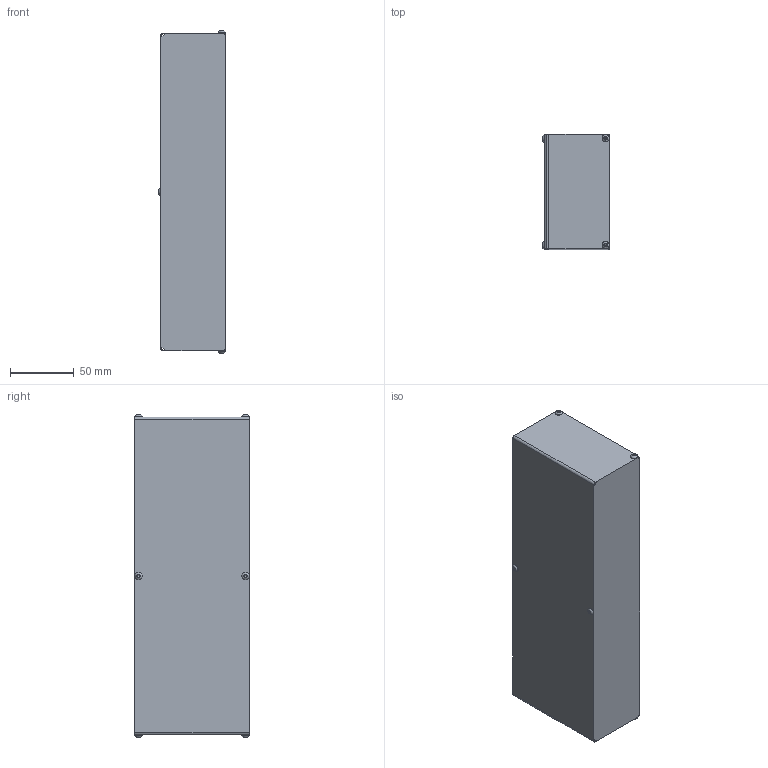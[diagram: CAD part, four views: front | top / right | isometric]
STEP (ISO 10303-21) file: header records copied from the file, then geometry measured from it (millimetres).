
FILE_DESCRIPTION(/* description */ (''),/* implementation_level */ '2;1');
FILE_NAME(/* name */ 'X:\VIRI ZA WEB\CAD DATOTEKE\LINEARNE ENOTE UNIMOTION\DODATNA OPREMA ZA LINEARNE ENOTE\STRANSKI POGONI\CTV-MTV\CTV 110-MTV 65\MSD CTV 110 T2 1 96 X 96\izvoz\MSD CTV 110 T2 1 96 X 96.stp',/* time_stamp */ '2016-06-06T11:06:27+02:00',/* author */ ('Hypex'),/* organization */ ('Hypex'),/* preprocessor_version */ 'ST-DEVELOPER v16.1',/* originating_system */ 'Autodesk Inventor 2016',/* authorisation */ '');
FILE_SCHEMA (('AUTOMOTIVE_DESIGN { 1 0 10303 214 3 1 1 }'));
Length unit declared in the file: millimetre
Products named in the file (1): MSD CTV 110 T2 1 96 X 96
Bounding box: 52.65 x 90 x 253.3 mm (x, y, z)
Volume: 1118165.8 mm3; surface area: 84442.5 mm2
Topology: 1 solids, 13 shells, 192 faces, 460 edges, 305 vertices
Faces by surface type: plane 111, cylinder 49, cone 20, bspline 6, torus 6
Full cylindrical faces by diameter (mm): 2.459 x6, 3 x6, 4 x6, 5.7 x6, 6.2 x8, 25 x1
Entity records: 5227 total; most frequent: CARTESIAN_POINT 1053, DIRECTION 820, ORIENTED_EDGE 716, EDGE_CURVE 358, AXIS2_PLACEMENT_3D 317, EDGE_LOOP 278, VERTEX_POINT 262, STYLED_ITEM 193
